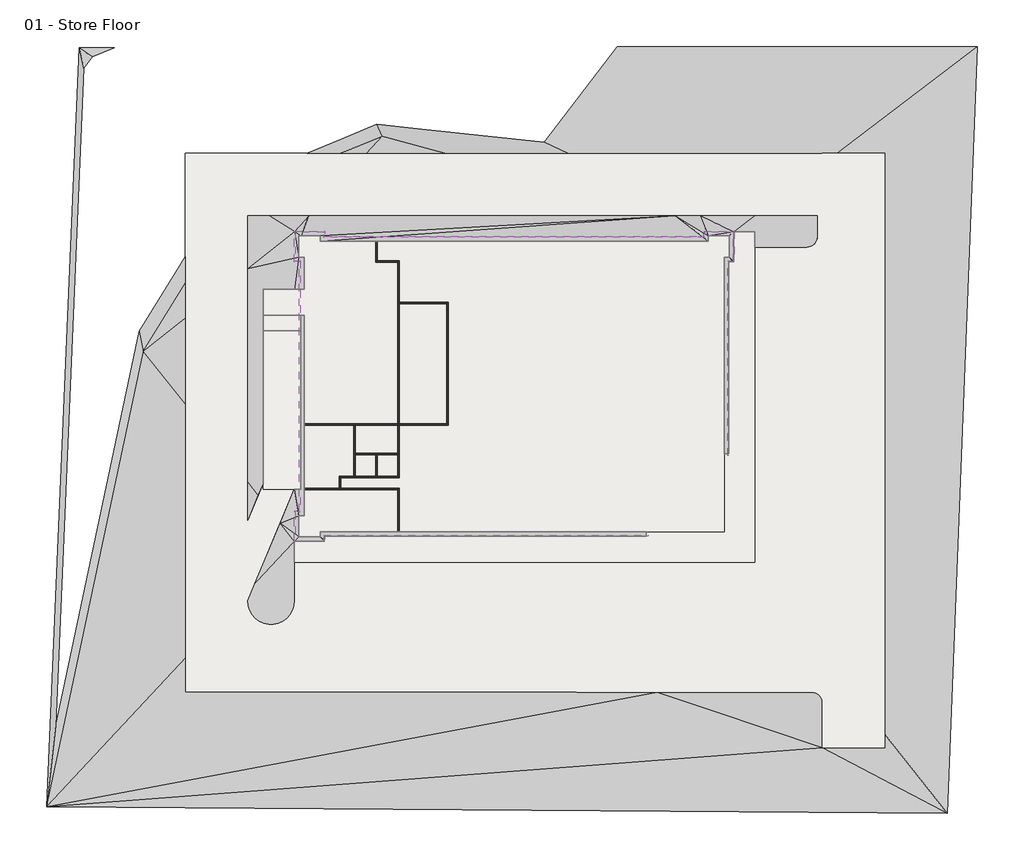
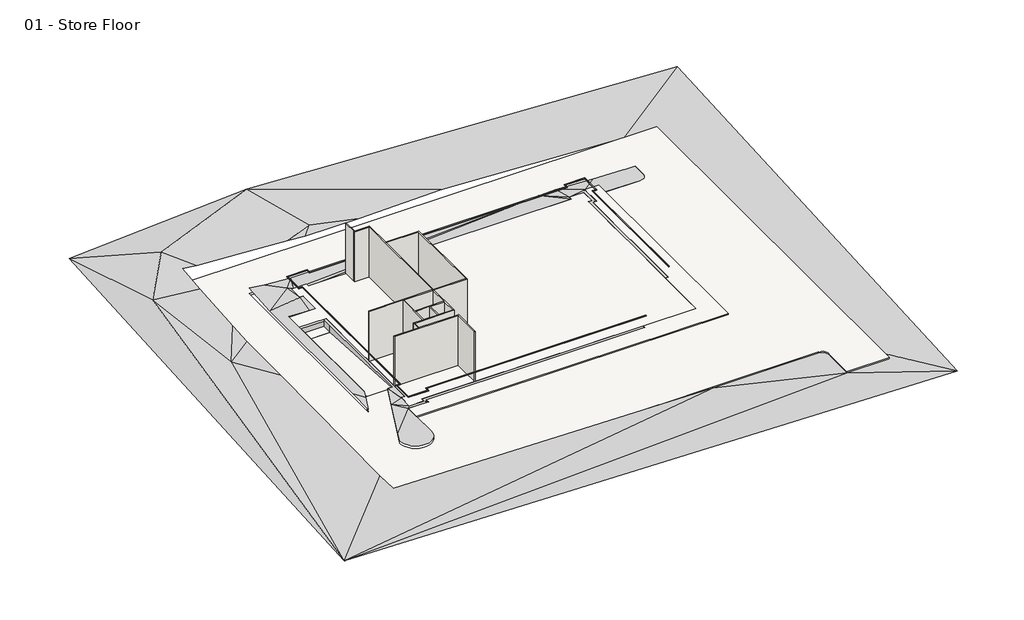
# One storey, incomplete: 21 proxies, 13 walls, 5 slabs.
"""IFC4 building model written with IfcOpenShell, lengths in millimetres."""

from ifc_helpers import new_model, si_unit, point, frame, frame_2d, origin, origin_with_axes, place, context, project, spatial, polyline, circle_curve, trimmed, segment, composite_curve, outline, extrude, faceted_brep, triangles, element, save

model = new_model("IFC4")

# Units and contexts
model_context = context("Model", 3, world=origin())
ifc_project = project(units=[si_unit("LENGTHUNIT", "METRE", prefix="MILLI")], contexts=[model_context])

# Site, building, storey
site = spatial("IfcSite", under=ifc_project)
building = spatial("IfcBuilding", under=site)
storey = spatial("IfcBuildingStorey", under=building, Name="01 - Store Floor", Elevation=0.0)

# Proxies
placement = place(None, origin())
element("IfcBuildingElementProxy", 1, Name="Reveals", at=placement, inside=storey, context=model_context, shape_type="SweptSolid", body=[
    extrude(outline(polyline([(11070.0272279, -14331.9313057), (11070.0272279, -14434.4313057), (-20003.9727721, -14434.4313057), (-20106.4727721, -14331.9313057), (11070.0272279, -14331.9313057)])), frame((0.0, 0.0, 1675.0), z_axis=(0.0, 0.0, 1.0), x_axis=(1.0, 0.0, 0.0)), (0.0, 0.0, 1.0), 75.0),
])
element("IfcBuildingElementProxy", 2, Name="Reveals", at=placement, inside=storey, context=model_context, shape_type="SweptSolid", body=[
    extrude(outline(polyline([(-20106.4727721, -14331.9313057), (-20003.9727721, -14434.4313057), (-20003.9727721, -14934.2313057), (-20106.4727721, -14831.7313057), (-20106.4727721, -14331.9313057)])), frame((0.0, 0.0, 1675.0), z_axis=(0.0, 0.0, 1.0), x_axis=(1.0, 0.0, 0.0)), (0.0, 0.0, 1.0), 75.0),
])
element("IfcBuildingElementProxy", 3, Name="Reveals", at=placement, inside=storey, context=model_context, shape_type="SweptSolid", body=[
    extrude(outline(polyline([(-20106.4727721, -14831.7313057), (-20003.9727721, -14934.2313057), (-22946.9727721, -14934.2313057), (-22844.4727721, -14831.7313057), (-20106.4727721, -14831.7313057)])), frame((0.0, 0.0, 1675.0), z_axis=(0.0, 0.0, 1.0), x_axis=(1.0, 0.0, 0.0)), (0.0, 0.0, 1.0), 75.0),
])
element("IfcBuildingElementProxy", 4, Name="Reveals", at=placement, inside=storey, context=model_context, shape_type="SweptSolid", body=[
    extrude(outline(polyline([(-22844.4727721, -14831.7313057), (-22946.9727721, -14934.2313057), (-22946.9727721, -11991.2313057), (-22844.4727721, -12093.7313057), (-22844.4727721, -14831.7313057)])), frame((0.0, 0.0, 1675.0), z_axis=(0.0, 0.0, 1.0), x_axis=(1.0, 0.0, 0.0)), (0.0, 0.0, 1.0), 75.0),
])
element("IfcBuildingElementProxy", 5, Name="Reveals", at=placement, inside=storey, context=model_context, shape_type="SweptSolid", body=[
    extrude(outline(polyline([(-22844.4727721, -12093.7313057), (-22946.9727721, -11991.2313057), (-22446.9727721, -11991.2313057), (-22344.4727721, -12093.7313057), (-22844.4727721, -12093.7313057)])), frame((0.0, 0.0, 1675.0), z_axis=(0.0, 0.0, 1.0), x_axis=(1.0, 0.0, 0.0)), (0.0, 0.0, 1.0), 75.0),
])
element("IfcBuildingElementProxy", 6, Name="Reveals", at=placement, inside=storey, context=model_context, shape_type="SweptSolid", body=[
    extrude(outline(polyline([(-22344.4727721, -12093.7313057), (-22446.9727721, -11991.2313057), (-22446.9727721, 11927.5686943), (-22344.4727721, 12030.0686943), (-22344.4727721, -12093.7313057)])), frame((0.0, 0.0, 1675.0), z_axis=(0.0, 0.0, 1.0), x_axis=(1.0, 0.0, 0.0)), (0.0, 0.0, 1.0), 75.0),
])
element("IfcBuildingElementProxy", 7, Name="Reveals", at=placement, inside=storey, context=model_context, shape_type="SweptSolid", body=[
    extrude(outline(polyline([(-22344.4727721, 12030.0686943), (-22446.9727721, 11927.5686943), (-22946.9727721, 11927.5686943), (-22844.4727721, 12030.0686943), (-22344.4727721, 12030.0686943)])), frame((0.0, 0.0, 1675.0), z_axis=(0.0, 0.0, 1.0), x_axis=(1.0, 0.0, 0.0)), (0.0, 0.0, 1.0), 75.0),
])
element("IfcBuildingElementProxy", 8, Name="Reveals", at=placement, inside=storey, context=model_context, shape_type="SweptSolid", body=[
    extrude(outline(polyline([(-22844.4727721, 12030.0686943), (-22946.9727721, 11927.5686943), (-22946.9727721, 14870.5686943), (-22844.4727721, 14768.0686943), (-22844.4727721, 12030.0686943)])), frame((0.0, 0.0, 1675.0), z_axis=(0.0, 0.0, 1.0), x_axis=(1.0, 0.0, 0.0)), (0.0, 0.0, 1.0), 75.0),
])
element("IfcBuildingElementProxy", 9, Name="Reveals", at=placement, inside=storey, context=model_context, shape_type="SweptSolid", body=[
    extrude(outline(polyline([(-22844.4727721, 14768.0686943), (-22946.9727721, 14870.5686943), (-20003.9727721, 14870.5686943), (-20106.4727721, 14768.0686943), (-22844.4727721, 14768.0686943)])), frame((0.0, 0.0, 1675.0), z_axis=(0.0, 0.0, 1.0), x_axis=(1.0, 0.0, 0.0)), (0.0, 0.0, 1.0), 75.0),
])
element("IfcBuildingElementProxy", 10, Name="Reveals", at=placement, inside=storey, context=model_context, shape_type="SweptSolid", body=[
    extrude(outline(polyline([(-20106.4727721, 14768.0686943), (-20003.9727721, 14870.5686943), (-20003.9727721, 14370.5686943), (-20106.4727721, 14268.0686943), (-20106.4727721, 14768.0686943)])), frame((0.0, 0.0, 1675.0), z_axis=(0.0, 0.0, 1.0), x_axis=(1.0, 0.0, 0.0)), (0.0, 0.0, 1.0), 75.0),
])
element("IfcBuildingElementProxy", 11, Name="Reveals", at=placement, inside=storey, context=model_context, shape_type="SweptSolid", body=[
    extrude(outline(polyline([(-20106.4727721, 14268.0686943), (-20003.9727721, 14370.5686943), (16365.0272279, 14370.5686943), (16467.5272279, 14268.0686943), (-20106.4727721, 14268.0686943)])), frame((0.0, 0.0, 1675.0), z_axis=(0.0, 0.0, 1.0), x_axis=(1.0, 0.0, 0.0)), (0.0, 0.0, 1.0), 75.0),
])
element("IfcBuildingElementProxy", 12, Name="Reveals", at=placement, inside=storey, context=model_context, shape_type="SweptSolid", body=[
    extrude(outline(polyline([(16467.5272279, 14268.0686943), (16365.0272279, 14370.5686943), (16365.0272279, 14870.5686943), (16467.5272279, 14768.0686943), (16467.5272279, 14268.0686943)])), frame((0.0, 0.0, 1675.0), z_axis=(0.0, 0.0, 1.0), x_axis=(1.0, 0.0, 0.0)), (0.0, 0.0, 1.0), 75.0),
])
element("IfcBuildingElementProxy", 13, Name="Reveals", at=placement, inside=storey, context=model_context, shape_type="SweptSolid", body=[
    extrude(outline(polyline([(16467.5272279, 14768.0686943), (16365.0272279, 14870.5686943), (19308.0272279, 14870.5686943), (19205.5272279, 14768.0686943), (16467.5272279, 14768.0686943)])), frame((0.0, 0.0, 1675.0), z_axis=(0.0, 0.0, 1.0), x_axis=(1.0, 0.0, 0.0)), (0.0, 0.0, 1.0), 75.0),
])
element("IfcBuildingElementProxy", 14, Name="Reveals", at=placement, inside=storey, context=model_context, shape_type="SweptSolid", body=[
    extrude(outline(polyline([(19205.5272279, 14768.0686943), (19308.0272279, 14870.5686943), (19308.0272279, 11927.5686943), (19205.5272279, 12030.0686943), (19205.5272279, 14768.0686943)])), frame((0.0, 0.0, 1675.0), z_axis=(0.0, 0.0, 1.0), x_axis=(1.0, 0.0, 0.0)), (0.0, 0.0, 1.0), 75.0),
])
element("IfcBuildingElementProxy", 15, Name="Reveals", at=placement, inside=storey, context=model_context, shape_type="SweptSolid", body=[
    extrude(outline(polyline([(19205.5272279, 12030.0686943), (19308.0272279, 11927.5686943), (18808.0272279, 11927.5686943), (18705.5272279, 12030.0686943), (19205.5272279, 12030.0686943)])), frame((0.0, 0.0, 1675.0), z_axis=(0.0, 0.0, 1.0), x_axis=(1.0, 0.0, 0.0)), (0.0, 0.0, 1.0), 75.0),
])
element("IfcBuildingElementProxy", 16, Name="Reveals", at=placement, inside=storey, context=model_context, shape_type="SweptSolid", body=[
    extrude(outline(polyline([(18705.5272279, 12030.0686943), (18808.0272279, 11927.5686943), (18808.0272279, -6696.4313057), (18705.5272279, -6696.4313057), (18705.5272279, 12030.0686943)])), frame((0.0, 0.0, 1675.0), z_axis=(0.0, 0.0, 1.0), x_axis=(1.0, 0.0, 0.0)), (0.0, 0.0, 1.0), 75.0),
])
element("IfcBuildingElementProxy", 17, Name="Building Element Proxy", at=placement, inside=storey, context=model_context, shape_type="Tessellation", body=[
    triangles([(-43566.3082031, 32462.523175, 1000.0000076), (-46716.2229126, -40393.2088623, 1000.0000076), (39777.6557373, -41004.7343262, -500.0000038), (42663.8237549, 32601.6611938, -500.0000038), (-18392.8342987, 32565.4122437, 2500.0000191), (33780.5264465, -34706.930365, -384.9401665), (27780.5275635, -34706.930365, -383.6411179), (27780.5275635, -30406.9323669, -305.9673343), (27731.5840393, -30097.9140198, -300.3747432), (27589.5438721, -29819.144989, -295.30841), (27368.3131897, -29597.9143066, -291.2642528), (27089.5441589, -29455.8741394, -288.6381413), (26780.5281372, -29406.9306152, -287.6871456), (11915.4122314, -29406.9306152, -284.4687919), (-33419.4717407, -29406.9306152, 509.2660807), (-33419.4717407, -26152.3013672, 432.8553014), (-33419.4717407, -1684.9523849, 719.9349804), (-33419.4717407, 6518.3399185, 720.4169277), (-33419.4717407, 9885.0384888, 1000.0000076), (-33419.4717407, 18055.2002563, 1642.8014694), (-33419.4717407, 22343.0687622, 2044.0540123), (-31378.0544861, 22343.0687622, 1780.8529266), (-25462.4923096, 22343.0687622, 1430.5636974), (-18450.5005463, 22343.0687622, 1000.0000076), (-16016.6502686, 22343.0687622, 817.2966974), (-8441.5899673, 22343.0687622, 817.7947048), (3306.7528107, 22343.0687622, 1051.3779762), (29175.0005859, 22343.0687622, -220.2242939), (33780.5264465, 22343.0687622, -317.0081938), (33780.5264465, 15117.0051819, -319.6062183), (33780.5264465, -33407.95849, -361.4759374), (26280.5260986, 13343.0692749, -162.6334778), (26589.5444458, 13392.0116364, -169.1097904), (26868.3134766, 13534.0518036, -174.9169577), (27089.5441589, 13755.2836487, -179.4865371), (27231.5843262, 14034.0515167, -182.3712447), (27280.5278503, 14343.0687012, -183.2886669), (27280.5278503, 16343.0687164, -182.5695974), (21285.7193481, 16343.0687164, -56.5903049), (16043.3172455, 16343.0687164, 201.1098175), (13662.4242004, 16343.0687164, 153.7723545), (-21518.9074402, 16343.0687164, 151.4593325), (-25294.1537476, 16343.0687164, 434.8579408), (-27419.4728577, 16343.0687164, 722.9589964), (-27419.4728577, 11264.0287354, 301.1768745), (-27419.4728577, -9240.2545898, 299.9721152), (-27419.4728577, -12884.300766, 257.215895), (-26417.4247192, -10502.0496643, 229.83499), (-25919.4737183, -9318.2271561, 195.0878195), (-25919.4737183, 5316.5097885, 195.9477053), (-25919.4737183, 6816.5095093, 196.0358358), (-25919.4737183, 9316.509819, 196.18272), (-22899.116217, 9316.509819, -14.9999997), (-21990.4716797, 9316.509819, -14.9999997), (-21990.4716797, 12384.0685089, -14.9999997), (-22490.4737183, 12384.0685089, -14.9999997), (-22490.4737183, 14414.0690186, -14.9999997), (-22283.239856, 14414.0690186, -14.9999997), (-20460.4720459, 14414.0690186, -14.9999997), (-20460.4720459, 13914.0681427, -14.9999997), (16821.5267212, 13914.0681427, -14.9999997), (16821.5267212, 14414.0690186, -14.9999997), (18851.5272308, 14414.0690186, -14.9999997), (18851.5272308, 12384.0685089, -14.9999997), (18351.5275177, 12384.0685089, -14.9999997), (18351.5275177, -6481.9310944, -14.9999997), (18780.5269135, -6481.9310944, -14.9999997), (18780.5269135, 11955.0691132, -14.9999997), (19231.5447327, 11955.0691132, -14.9999997), (19280.5277893, 11955.0691132, -16.029345), (19280.5277893, 14818.0687775, -14.9999997), (19280.5277893, 14843.0684143, -14.0659235), (19313.3990387, 14843.0684143, -15.6818087), (21280.5266418, 14843.0684143, -57.0204839), (21280.5266418, 13343.0692749, -57.559786), (-22919.473114, -16906.9308105, 31.9598247), (-22919.473114, -14906.7308075, -14.9999997), (-20031.4726501, -14906.7308075, -15.6252635), (-20031.4726501, -14872.1166412, -14.9999997), (-20031.4726501, -14406.9310822, -14.9999997), (10855.5269257, -14406.9310822, -14.9999997), (10855.5269257, -13977.9316864, -14.9999997), (-20460.4720459, -13977.9316864, -14.9999997), (-20460.4720459, -14477.7314117, -14.9999997), (-22490.4737183, -14477.7314117, -14.9999997), (-22490.4737183, -12447.7309021, -14.9999997), (-21990.4716797, -12447.7309021, -14.9999997), (-21990.4716797, 6816.5095093, -14.9999997), (-22319.4725281, 6816.5095093, -14.9999997), (-22319.4725281, 5316.5097885, -14.9999997), (-22319.4725281, -9923.4907928, -14.9999997), (-22915.2849976, -9923.4907928, -14.9999997), (-22919.473114, -9923.4907928, -14.7072021), (-24289.7755188, -13181.2233398, 80.9126756), (-26734.0263245, -18992.1430664, 147.701713), (-27419.4728577, -20621.7110413, 197.9609908), (-27370.3037659, -21089.5127197, 208.0829929), (-27224.9498474, -21536.8691345, 216.040901), (-26989.7618774, -21944.2279907, 221.4869712), (-26675.0159729, -22293.7880493, 224.1831366), (-26294.471759, -22570.2688477, 224.0115809), (-25864.7607788, -22761.5897278, 220.9798074), (-25404.6609558, -22859.386084, 215.2203116), (-24934.2826904, -22859.386084, 206.9848041), (-24474.1851929, -22761.5897278, 196.6332376), (-24044.4718872, -22570.2688477, 184.6180007), (-23663.9299988, -22293.7880493, 171.4642251), (-23349.1840942, -21944.2279907, 157.746803), (-23113.9961243, -21536.8691345, 144.0652526), (-22968.6398804, -21089.5127197, 131.0175116), (-22919.473114, -20621.7110413, 119.1738304), (-34204.7703186, 26133.4374023, 2500.0000191), (-40234.7441162, 17825.4724182, 2500.0000191), (-14506.8505646, 23989.4473389, 1000.0000076), (-37420.7554138, 3353.5319321, 1000.0000076), (-22894.4723145, 14843.0684143, -14.9999997)], [[2, 15, 16], [115, 2, 16], [96, 101, 102], [97, 100, 101], [102, 103, 96], [97, 98, 100], [96, 97, 101], [96, 111, 95], [98, 99, 100], [104, 96, 103], [46, 47, 48], [105, 106, 96], [106, 107, 96], [108, 109, 96], [110, 96, 109], [107, 108, 96], [110, 111, 96], [95, 76, 77], [78, 85, 77], [94, 77, 85], [94, 95, 77], [95, 111, 76], [86, 93, 94], [91, 86, 87], [92, 93, 86], [86, 91, 92], [86, 94, 85], [105, 96, 104], [14, 15, 2], [115, 18, 19], [18, 115, 17], [115, 19, 113], [44, 45, 43], [52, 45, 51], [49, 50, 46], [115, 16, 17], [1, 113, 112], [1, 2, 113], [112, 113, 21], [5, 1, 112], [20, 113, 19], [21, 22, 112], [20, 21, 113], [112, 22, 23], [45, 52, 56], [113, 2, 115], [50, 51, 45], [46, 50, 45], [88, 89, 90], [87, 88, 91], [46, 48, 49], [45, 116, 43], [56, 116, 45], [42, 43, 116], [52, 53, 56], [56, 53, 54], [57, 58, 116], [56, 57, 116], [54, 55, 56], [42, 116, 58], [5, 112, 23], [83, 84, 80], [85, 78, 84], [79, 84, 78], [79, 80, 84], [82, 80, 81], [82, 83, 80], [88, 90, 91], [66, 67, 68], [65, 68, 64], [68, 65, 66], [10, 8, 9], [7, 8, 13], [6, 3, 31], [3, 6, 7], [7, 14, 2], [8, 10, 11], [69, 70, 64], [64, 68, 69], [11, 12, 13], [11, 13, 8], [75, 32, 74], [31, 3, 30], [13, 14, 7], [2, 3, 7], [64, 70, 71], [59, 60, 41], [59, 42, 58], [62, 40, 41], [72, 62, 63], [62, 72, 40], [62, 41, 61], [41, 60, 61], [24, 5, 23], [5, 24, 114], [27, 5, 26], [25, 114, 24], [114, 25, 26], [5, 114, 26], [42, 59, 41], [4, 5, 27], [64, 71, 63], [71, 72, 63], [34, 35, 37], [36, 37, 35], [34, 37, 33], [32, 37, 38], [73, 74, 39], [39, 74, 32], [39, 32, 38], [73, 39, 72], [29, 4, 28], [4, 29, 30], [30, 3, 4], [4, 27, 28], [40, 72, 39], [33, 37, 32]], closed=False),
])
element("IfcBuildingElementProxy", 18, Name="Building Element Proxy", at=placement, inside=storey, context=model_context, shape_type="Tessellation", body=[
    triangles([(10855.5269257, -13977.9316864, -304.9595106), (10855.5269257, -13977.9316864, -14.9999997), (-20460.4720459, -13977.9316864, -304.9595106), (-20460.4720459, -13977.9316864, -14.9999997), (-20460.4720459, -14477.7314117, -304.9595106), (-20460.4720459, -14477.7314117, -14.9999997), (-22490.4737183, -14477.7314117, -304.9595106), (-22490.4737183, -14477.7314117, -14.9999997), (-22490.4737183, -12447.7309021, -304.9595106), (-22490.4737183, -12447.7309021, -14.9999997), (-21990.4716797, -12447.7309021, -304.9595106), (-21990.4716797, -12447.7309021, -14.9999997), (-21990.4716797, 6816.5095093, -304.9595106), (-21990.4716797, 6816.5095093, -14.9999997), (-22319.4725281, 6816.5095093, -304.9595106), (-22319.4725281, 6816.5095093, -14.9999997)], [[1, 4, 2], [1, 3, 4], [3, 6, 4], [3, 5, 6], [5, 8, 6], [5, 7, 8], [7, 10, 8], [7, 9, 10], [9, 12, 10], [9, 11, 12], [11, 14, 12], [11, 13, 14], [13, 16, 14], [13, 15, 16]], closed=False),
    triangles([(-25919.4737183, 6816.5095093, -304.9595106), (-25919.4737183, 6816.5095093, 196.0358358), (-25919.4737183, 9316.509819, -304.9595106), (-25919.4737183, 9316.509819, 196.18272), (-22899.116217, 9316.509819, -304.9595106), (-22899.116217, 9316.509819, -14.9999997), (-21990.4716797, 9316.509819, -304.9595106), (-21990.4716797, 9316.509819, -14.9999997), (-21990.4716797, 12384.0685089, -304.9595106), (-21990.4716797, 12384.0685089, -14.9999997), (-22490.4737183, 12384.0685089, -304.9595106), (-22490.4737183, 12384.0685089, -14.9999997), (-22490.4737183, 14414.0690186, -304.9595106), (-22490.4737183, 14414.0690186, -14.9999997), (-22283.239856, 14414.0690186, -304.9595106), (-22283.239856, 14414.0690186, -14.9999997), (-20460.4720459, 14414.0690186, -304.9595106), (-20460.4720459, 14414.0690186, -14.9999997), (-20460.4720459, 13914.0681427, -304.9595106), (-20460.4720459, 13914.0681427, -14.9999997), (16821.5267212, 13914.0681427, -304.9595106), (16821.5267212, 13914.0681427, -14.9999997), (16821.5267212, 14414.0690186, -304.9595106), (16821.5267212, 14414.0690186, -14.9999997), (18851.5272308, 14414.0690186, -304.9595106), (18851.5272308, 14414.0690186, -14.9999997), (18851.5272308, 12384.0685089, -304.9595106), (18851.5272308, 12384.0685089, -14.9999997), (18351.5275177, 12384.0685089, -304.9595106), (18351.5275177, 12384.0685089, -14.9999997), (18351.5275177, -6481.9310944, -304.9595106), (18351.5275177, -6481.9310944, -14.9999997)], [[1, 4, 2], [1, 3, 4], [3, 6, 4], [3, 5, 6], [5, 8, 6], [5, 7, 8], [7, 10, 8], [7, 9, 10], [9, 12, 10], [9, 11, 12], [11, 14, 12], [11, 13, 14], [13, 16, 14], [13, 15, 16], [15, 18, 16], [15, 17, 18], [17, 20, 18], [17, 19, 20], [19, 22, 20], [19, 21, 22], [21, 24, 22], [21, 23, 24], [23, 26, 24], [23, 25, 26], [25, 28, 26], [25, 27, 28], [27, 30, 28], [27, 29, 30], [29, 32, 30], [29, 31, 32]], closed=False),
    triangles([(16821.5267212, 13914.0681427, -304.9595106), (-20460.4720459, 13914.0681427, -304.9595106), (-20460.4720459, 14414.0690186, -304.9595106), (-22490.4737183, 14414.0690186, -304.9595106), (-22490.4737183, 12384.0685089, -304.9595106), (-21990.4716797, 12384.0685089, -304.9595106), (-21990.4716797, 9316.509819, -304.9595106), (-25919.4737183, 9316.509819, -304.9595106), (-25919.4737183, 6816.5095093, -304.9595106), (-21990.4716797, 6816.5095093, -304.9595106), (-21990.4716797, -12447.7309021, -304.9595106), (-22490.4737183, -12447.7309021, -304.9595106), (-22490.4737183, -14477.7314117, -304.9595106), (-20460.4720459, -14477.7314117, -304.9595106), (-20460.4720459, -13977.9316864, -304.9595106), (10855.5269257, -13977.9316864, -304.9595106), (18351.5275177, -13977.9316864, -304.9595106), (18351.5275177, -6481.9310944, -304.9595106), (18351.5275177, 12384.0685089, -304.9595106), (18851.5272308, 12384.0685089, -304.9595106), (18851.5272308, 14414.0690186, -304.9595106), (16821.5267212, 14414.0690186, -304.9595106)], [[11, 12, 13], [2, 7, 10], [13, 15, 11], [9, 10, 7], [4, 5, 6], [2, 4, 6], [7, 2, 6], [4, 2, 3], [8, 9, 7], [10, 11, 15], [16, 10, 15], [16, 17, 18], [1, 10, 16], [1, 16, 18], [10, 1, 2], [22, 1, 21], [19, 20, 21], [19, 21, 1], [18, 19, 1], [15, 13, 14]], closed=False),
])
element("IfcBuildingElementProxy", 19, Name="Building Element Proxy", at=placement, inside=storey, context=model_context, shape_type="Tessellation", body=[
    triangles([(10855.5269257, -13977.9316864, -304.9595106), (10855.5269257, -13977.9316864, -14.9999997), (10855.5269257, -14406.9310822, -304.9595106), (10855.5269257, -14406.9310822, -14.9999997), (-20031.4726501, -14406.9310822, -304.9595106), (-20031.4726501, -14406.9310822, -14.9999997), (-20031.4726501, -14872.1166412, -304.9595106), (-20031.4726501, -14872.1166412, -14.9999997), (-20031.4726501, -14906.7308075, -304.9595106), (-20031.4726501, -14906.7308075, -15.6252635), (-22919.473114, -14906.7308075, -304.9595106), (-22919.473114, -14906.7308075, -14.9999997), (-22919.473114, -16906.9308105, -304.9595106), (-22919.473114, -16906.9308105, 31.9598247)], [[1, 4, 2], [1, 3, 4], [3, 6, 4], [3, 5, 6], [5, 8, 6], [5, 7, 8], [7, 10, 8], [7, 9, 10], [9, 12, 10], [9, 11, 12], [11, 14, 12], [11, 13, 14]], closed=False),
    triangles([(18351.5275177, -6481.9310944, -304.9595106), (18351.5275177, -6481.9310944, -14.9999997), (18780.5269135, -6481.9310944, -304.9595106), (18780.5269135, -6481.9310944, -14.9999997), (18780.5269135, 11955.0691132, -304.9595106), (18780.5269135, 11955.0691132, -14.9999997), (19231.5447327, 11955.0691132, -304.9595106), (19231.5447327, 11955.0691132, -14.9999997), (19280.5277893, 11955.0691132, -304.9595106), (19280.5277893, 11955.0691132, -16.029345), (19280.5277893, 14818.0687775, -304.9595106), (19280.5277893, 14818.0687775, -14.9999997), (19280.5277893, 14843.0684143, -304.9595106), (19280.5277893, 14843.0684143, -14.0659235), (19313.3990387, 14843.0684143, -304.9595106), (19313.3990387, 14843.0684143, -15.6818087), (21280.5266418, 14843.0684143, -304.9595106), (21280.5266418, 14843.0684143, -57.0204839), (21280.5266418, 13343.0692749, -304.9595106), (21280.5266418, 13343.0692749, -57.559786)], [[1, 4, 2], [1, 3, 4], [3, 6, 4], [3, 5, 6], [5, 8, 6], [5, 7, 8], [7, 10, 8], [7, 9, 10], [9, 12, 10], [9, 11, 12], [11, 14, 12], [11, 13, 14], [13, 16, 14], [13, 15, 16], [15, 18, 16], [15, 17, 18], [17, 20, 18], [17, 19, 20]], closed=False),
    triangles([(21280.5266418, 14843.0684143, -304.9595106), (19280.5277893, 14843.0684143, -304.9595106), (19280.5277893, 11955.0691132, -304.9595106), (18780.5269135, 11955.0691132, -304.9595106), (18780.5269135, -6481.9310944, -304.9595106), (18351.5275177, -6481.9310944, -304.9595106), (18351.5275177, -13977.9316864, -304.9595106), (10855.5269257, -13977.9316864, -304.9595106), (10855.5269257, -14406.9310822, -304.9595106), (-20031.4726501, -14406.9310822, -304.9595106), (-20031.4726501, -14906.7308075, -304.9595106), (-22919.473114, -14906.7308075, -304.9595106), (-22919.473114, -16906.9308105, -304.9595106), (21280.5266418, -16906.9308105, -304.9595106)], [[13, 11, 12], [11, 13, 9], [7, 8, 9], [10, 11, 9], [13, 14, 9], [7, 14, 5], [14, 7, 9], [5, 14, 1], [3, 4, 5], [1, 2, 3], [3, 5, 1], [5, 6, 7]], closed=False),
])
element("IfcBuildingElementProxy", 20, Name="Building Element Proxy", at=placement, inside=storey, context=model_context, shape_type="Tessellation", body=[
    triangles([(-25919.4737183, 5316.5097885, -1369.9595478), (-25919.4737183, 5316.5097885, -1370.3489136), (-22902.4788025, 5316.5097885, -1369.9595478), (-22902.4788025, 5316.5097885, -1370.3489136), (-22319.4725281, 5316.5097885, -1369.9595478), (-22319.4725281, 5316.5097885, -1370.3489136)], [[1, 4, 2], [1, 3, 4], [3, 6, 4], [3, 5, 6]], closed=False),
    triangles([(-25919.4737183, 6816.5095093, -1369.9595478), (-25919.4737183, 6816.5095093, -304.9595106), (-22901.2184143, 6816.5095093, -1369.9595478), (-22901.2184143, 6816.5095093, -304.9595106), (-22319.4725281, 6816.5095093, -1369.9595478), (-22319.4725281, 6816.5095093, -304.9595106)], [[1, 4, 2], [1, 3, 4], [3, 6, 4], [3, 5, 6]], closed=False),
    triangles([(-22319.4725281, 5316.5097885, -1369.9595478), (-22319.4725281, 5316.5097885, -14.9999997), (-22319.4725281, 6816.5095093, -1369.9595478), (-22319.4725281, 6816.5095093, -14.9999997)], [[1, 4, 2], [1, 3, 4]], closed=False),
    triangles([(-25919.4737183, 6816.5095093, -1369.9595478), (-25919.4737183, 6816.5095093, 196.0358358), (-25919.4737183, 5316.5097885, -1369.9595478), (-25919.4737183, 5316.5097885, 195.9477053)], [[1, 4, 2], [1, 3, 4]], closed=False),
    triangles([(-25919.4737183, 6816.5095093, -1369.9595478), (-25919.4737183, 5316.5097885, -1369.9595478), (-22319.4725281, 5316.5097885, -1369.9595478), (-22319.4725281, 6816.5095093, -1369.9595478)], [[1, 2, 3], [3, 4, 1]], closed=False),
])
element("IfcBuildingElementProxy", 21, Name="Building Element Proxy", at=placement, inside=storey, context=model_context, shape_type="Tessellation", body=[
    triangles([(-22319.4725281, 5316.5097885, -1370.3489136), (-22319.4725281, 5316.5097885, -14.9999997), (-22319.4725281, -9923.4907928, -455.3488775), (-22319.4725281, -9923.4907928, -14.9999997), (-22915.2849976, -9923.4907928, -455.3488775), (-22915.2849976, -9923.4907928, -14.9999997), (-22919.473114, -9923.4907928, -455.3488775), (-22919.473114, -9923.4907928, -14.7072021)], [[1, 4, 2], [1, 3, 4], [3, 6, 4], [3, 5, 6], [5, 8, 6], [5, 7, 8]], closed=False),
    triangles([(-25919.4737183, 5316.5097885, -1370.3489136), (-25919.4737183, 5316.5097885, 195.9477053), (-25919.4737183, -9318.2271561, -491.6884835), (-25919.4737183, -9318.2271561, 195.0878195)], [[1, 4, 2], [1, 3, 4]], closed=False),
    triangles([(-25919.4737183, 5316.5097885, -1370.3489136), (-25919.4737183, -9923.4907928, -455.3488775), (-22319.4725281, -9923.4907928, -455.3488775), (-22319.4725281, 5316.5097885, -1370.3489136)], [[1, 2, 3], [3, 4, 1]], closed=False),
])

# Slabs
element("IfcSlab", 22, ObjectType="Pad 1", at=placement, inside=storey, context=model_context, shape_type="SweptSolid", body=[
    extrude(outline(polyline([(16821.5272279, 13914.0686943), (16821.5272279, 14414.0686943), (18851.5272279, 14414.0686943), (18851.5272279, 12384.0686943), (18351.5272279, 12384.0686943), (18351.5272279, -6481.9313057), (18351.5272279, -13977.9313057), (10855.5272279, -13977.9313057), (-20460.4727721, -13977.9313057), (-20460.4727721, -14477.7313057), (-22490.4727721, -14477.7313057), (-22490.4727721, -12447.7313057), (-21990.4727721, -12447.7313057), (-21990.4727721, 6816.509692), (-25919.4727721, 6816.509692), (-25919.4727721, 9316.509692), (-21990.4727721, 9316.509692), (-21990.4727721, 12384.0686943), (-22490.4727721, 12384.0686943), (-22490.4727721, 14414.0686943), (-20460.4727721, 14414.0686943), (-20460.4727721, 13914.0686943), (16821.5272279, 13914.0686943)])), frame((0.0, 0.0, -304.8), z_axis=(0.0, 0.0, 1.0), x_axis=(1.0, 0.0, 0.0)), (0.0, 0.0, 1.0), 304.8),
])
element("IfcSlab", 23, ObjectType="Pad 1", at=placement, inside=storey, context=model_context, shape_type="SweptSolid", body=[
    extrude(outline(polyline([(21280.5272279, 14843.0686943), (21280.5272279, -16906.9313057), (-22919.4727721, -16906.9313057), (-22919.4727721, -14906.7313057), (-20031.4727721, -14906.7313057), (-20031.4727721, -14406.9313057), (10855.5272279, -14406.9313057), (10855.5272279, -13977.9313057), (18351.5272279, -13977.9313057), (18351.5272279, -6481.9313057), (18780.5272279, -6481.9313057), (18780.5272279, 11955.0686943), (19280.5272279, 11955.0686943), (19280.5272279, 14843.0686943), (21280.5272279, 14843.0686943)])), frame((0.0, 0.0, -304.8), z_axis=(0.0, 0.0, 1.0), x_axis=(1.0, 0.0, 0.0)), (0.0, 0.0, 1.0), 304.8),
])
element("IfcSlab", 24, ObjectType="Pad 1", at=placement, inside=storey, context=model_context, shape_type="SweptSolid", body=[
    extrude(outline(composite_curve([segment(polyline([(33780.5272279, -34706.9313057), (27780.5272279, -34706.9313057), (27780.5272279, -30406.9313057)]), True, "CONTINUOUS"), segment(trimmed(circle_curve(frame_2d((26780.5272279, -30406.9313057)), 1000.0), [point((27780.5272279, -30406.9313057))], [point((26780.5272279, -29406.9313057))], True, "CARTESIAN"), True, "CONTINUOUS"), segment(polyline([(26780.5272279, -29406.9313057), (-33419.4727721, -29406.9313057), (-33419.4727721, 22343.0686943), (33780.5272279, 22343.0686943), (33780.5272279, -34706.9313057)]), True, "CONTINUOUS")], self_intersect=False), holes=[composite_curve([segment(trimmed(circle_curve(frame_2d((26280.5272279, 14343.0686943)), 1000.0), [point((26280.5272279, 13343.0686943))], [point((27280.5272279, 14343.0686943))], True, "CARTESIAN"), True, "CONTINUOUS"), segment(polyline([(27280.5272279, 14343.0686943), (27280.5272279, 16343.0686943), (-27419.4727721, 16343.0686943), (-27419.4727721, -12884.3008421), (-25919.4727721, -9318.2269035), (-25919.4727721, -9923.490308), (-22919.4727721, -9923.490308), (-27419.4727721, -20621.7121237)]), True, "CONTINUOUS"), segment(trimmed(circle_curve(frame_2d((-25169.4727721, -20621.7121237)), 2250.0), [point((-27419.4727721, -20621.7121237))], [point((-22919.4727721, -20621.7121237))], True, "CARTESIAN"), True, "CONTINUOUS"), segment(polyline([(-22919.4727721, -20621.7121237), (-22919.4727721, -16906.9313057), (21280.5272279, -16906.9313057), (21280.5272279, 13343.0686943), (26280.5272279, 13343.0686943)]), True, "CONTINUOUS")], self_intersect=False)]), frame((0.0, 0.0, -454.8), z_axis=(0.0, 0.0, 1.0), x_axis=(1.0, 0.0, 0.0)), (0.0, 0.0, 1.0), 304.8),
])
element("IfcSlab", 25, ObjectType="Pad 1", at=placement, inside=storey, context=model_context, shape_type="SweptSolid", body=[
    extrude(outline(polyline([(-25919.4727721, 6816.509692), (-22319.4727721, 6816.509692), (-22319.4727721, 5316.509692), (-25919.4727721, 5316.509692), (-25919.4727721, 6816.509692)])), frame((0.0, 0.0, -1369.8), z_axis=(0.0, 0.0, 1.0), x_axis=(1.0, 0.0, 0.0)), (0.0, 0.0, 1.0), 304.8),
])
element("IfcSlab", 26, ObjectType="Pad 1", at=placement, inside=storey, context=model_context, shape_type="SweptSolid", body=[
    extrude(outline(polyline([(5316.509692, -1370.3488661), (-9923.490308, -455.3488661), (-9923.490308, -150.0), (5316.509692, -1065.0), (5316.509692, -1370.3488661)])), frame((-25919.4727721, 0.0, 0.0), z_axis=(1.0, 0.0, 0.0), x_axis=(0.0, 1.0, 0.0)), (0.0, 0.0, 1.0), 3600.0),
])

# Walls
element("IfcWall", 27, ObjectType="Interior - 138mm Partition (1-hr)", at=placement, inside=storey, context=model_context, shape_type="Brep", body=[
    faceted_brep([(-12850.2227721, -13977.9313057, 0.0), (-12850.2227721, -9826.1813057, 0.0), (-12850.2227721, -9826.1813057, 7500.0), (-12850.2227721, -13977.9313057, 7500.0), (-12988.7227721, -13977.9313057, 0.0), (-12988.7227721, -13977.9313057, 7500.0), (-12988.7227721, -9964.6813057, 7500.0), (-12988.7227721, -9826.1813057, 7500.0), (-12988.7227721, -9826.1813057, 0.0), (-12988.7227721, -9964.6813057, 0.0)], [[[0, 1, 2, 3]], [[4, 5, 6, 7, 8, 9]], [[1, 0, 4, 9, 8]], [[3, 2, 7, 6, 5]], [[0, 3, 5, 4]], [[2, 1, 8, 7]]]),
])
element("IfcWall", 28, ObjectType="Interior - 138mm Partition (1-hr)", at=placement, inside=storey, context=model_context, shape_type="Brep", body=[
    faceted_brep([(-12988.7227721, 12024.3186943, 0.0), (-14950.2227721, 12024.3186943, 0.0), (-15088.7227721, 12024.3186943, 0.0), (-15088.7227721, 12024.3186943, 7500.0), (-14950.2227721, 12024.3186943, 7500.0), (-12988.7227721, 12024.3186943, 7500.0), (-12988.7227721, 11885.8186943, 0.0), (-12988.7227721, 11885.8186943, 7500.0), (-15088.7227721, 11885.8186943, 7500.0), (-15088.7227721, 11885.8186943, 0.0)], [[[0, 1, 2, 3, 4, 5]], [[6, 7, 8, 9]], [[2, 1, 0, 6, 9]], [[5, 4, 3, 8, 7]], [[0, 5, 7, 6]], [[3, 2, 9, 8]]]),
])
element("IfcWall", 29, ObjectType="Interior - 138mm Partition (1-hr)", at=placement, inside=storey, context=model_context, shape_type="SweptSolid", body=[
    extrude(outline(polyline([(-14950.2227721, 13914.0686943), (-14950.2227721, 12024.3186943), (-15088.7227721, 12024.3186943), (-15088.7227721, 13914.0686943), (-14950.2227721, 13914.0686943)])), origin_with_axes(), (0.0, 0.0, 1.0), 7500.0),
])
element("IfcWall", 30, ObjectType="Interior - 138mm Partition (1-hr)", at=placement, inside=storey, context=model_context, shape_type="Brep", body=[
    faceted_brep([(-12850.2227721, -8637.6813057, 0.0), (-12988.7227721, -8637.6813057, 0.0), (-14965.5977721, -8637.6813057, 0.0), (-15104.0977721, -8637.6813057, 0.0), (-17080.9727721, -8637.6813057, 0.0), (-17219.4727721, -8637.6813057, 0.0), (-18588.7227721, -8637.6813057, 0.0), (-18588.7227721, -8637.6813057, 7500.0), (-17219.4727721, -8637.6813057, 7500.0), (-17080.9727721, -8637.6813057, 7500.0), (-15104.0977721, -8637.6813057, 7500.0), (-14965.5977721, -8637.6813057, 7500.0), (-12988.7227721, -8637.6813057, 7500.0), (-12850.2227721, -8637.6813057, 7500.0), (-12850.2227721, -8776.1813057, 0.0), (-12850.2227721, -8776.1813057, 7500.0), (-18450.2227721, -8776.1813057, 7500.0), (-18588.7227721, -8776.1813057, 7500.0), (-18588.7227721, -8776.1813057, 0.0), (-18450.2227721, -8776.1813057, 0.0)], [[[0, 1, 2, 3, 4, 5, 6, 7, 8, 9, 10, 11, 12, 13]], [[14, 15, 16, 17, 18, 19]], [[6, 5, 4, 3, 2, 1, 0, 14, 19, 18]], [[13, 12, 11, 10, 9, 8, 7, 17, 16, 15]], [[7, 6, 18, 17]], [[0, 13, 15, 14]]]),
])
element("IfcWall", 31, ObjectType="Interior - 138mm Partition (1-hr)", at=placement, inside=storey, context=model_context, shape_type="SweptSolid", body=[
    extrude(outline(polyline([(-18588.7227721, -9826.1813057), (-18588.7227721, -8776.1813057), (-18450.2227721, -8776.1813057), (-18450.2227721, -9826.1813057), (-18588.7227721, -9826.1813057)])), origin_with_axes(), (0.0, 0.0, 1.0), 7500.0),
])
element("IfcWall", 32, ObjectType="Interior - 138mm Partition (1-hr)", at=placement, inside=storey, context=model_context, shape_type="Brep", body=[
    faceted_brep([(-21990.4727721, -9964.6813057, 0.0), (-12988.7227721, -9964.6813057, 0.0), (-12988.7227721, -9964.6813057, 7500.0), (-21990.4727721, -9964.6813057, 7500.0), (-21990.4727721, -9826.1813057, 0.0), (-21990.4727721, -9826.1813057, 7500.0), (-18588.7227721, -9826.1813057, 7500.0), (-18450.2227721, -9826.1813057, 7500.0), (-12988.7227721, -9826.1813057, 7500.0), (-12988.7227721, -9826.1813057, 0.0), (-18450.2227721, -9826.1813057, 0.0), (-18588.7227721, -9826.1813057, 0.0)], [[[0, 1, 2, 3]], [[4, 5, 6, 7, 8, 9, 10, 11]], [[1, 0, 4, 11, 10, 9]], [[3, 2, 8, 7, 6, 5]], [[0, 3, 5, 4]], [[2, 1, 9, 8]]]),
])
element("IfcWall", 33, ObjectType="Interior - 138mm Partition (1-hr)", at=placement, inside=storey, context=model_context, shape_type="Brep", body=[
    faceted_brep([(-17080.9727721, -8637.6813057, 0.0), (-17080.9727721, -6606.9313057, 0.0), (-17080.9727721, -6468.4313057, 0.0), (-17080.9727721, -3776.1813057, 0.0), (-17080.9727721, -3776.1813057, 7500.0), (-17080.9727721, -6468.4313057, 7500.0), (-17080.9727721, -6606.9313057, 7500.0), (-17080.9727721, -8637.6813057, 7500.0), (-17219.4727721, -8637.6813057, 0.0), (-17219.4727721, -8637.6813057, 7500.0), (-17219.4727721, -3776.1813057, 7500.0), (-17219.4727721, -3776.1813057, 0.0)], [[[0, 1, 2, 3, 4, 5, 6, 7]], [[8, 9, 10, 11]], [[3, 2, 1, 0, 8, 11]], [[7, 6, 5, 4, 10, 9]], [[0, 7, 9, 8]], [[4, 3, 11, 10]]]),
])
element("IfcWall", 34, ObjectType="Interior - 138mm Partition (1-hr)", at=placement, inside=storey, context=model_context, shape_type="Brep", body=[
    faceted_brep([(-21990.4727721, -3637.6813057, 0.0), (-21990.4727721, -3637.6813057, 7500.0), (-12988.7227721, -3637.6813057, 7500.0), (-12988.7227721, -3637.6813057, 0.0), (-21990.4727721, -3776.1813057, 7500.0), (-21990.4727721, -3776.1813057, 0.0), (-17219.4727721, -3776.1813057, 0.0), (-17080.9727721, -3776.1813057, 0.0), (-12988.7227721, -3776.1813057, 0.0), (-12988.7227721, -3776.1813057, 7500.0), (-17080.9727721, -3776.1813057, 7500.0), (-17219.4727721, -3776.1813057, 7500.0)], [[[0, 1, 2, 3]], [[4, 5, 6, 7, 8, 9, 10, 11]], [[5, 0, 3, 8, 7, 6]], [[1, 4, 11, 10, 9, 2]], [[1, 0, 5, 4]], [[3, 2, 9, 8]]]),
    faceted_brep([(-8135.7227721, -3637.6813057, 7500.0), (-8135.7227721, -3637.6813057, 0.0), (-8274.2227721, -3637.6813057, 0.0), (-12850.2227721, -3637.6813057, 0.0), (-12850.2227721, -3637.6813057, 7500.0), (-8274.2227721, -3637.6813057, 7500.0), (-8135.7227721, -3776.1813057, 0.0), (-8135.7227721, -3776.1813057, 7500.0), (-12850.2227721, -3776.1813057, 7500.0), (-12850.2227721, -3776.1813057, 0.0)], [[[0, 1, 2, 3, 4, 5]], [[6, 7, 8, 9]], [[1, 6, 9, 3, 2]], [[7, 0, 5, 4, 8]], [[1, 0, 7, 6]], [[4, 3, 9, 8]]]),
])
element("IfcWall", 35, ObjectType="Interior - 138mm Partition (1-hr)", at=placement, inside=storey, context=model_context, shape_type="Brep", body=[
    faceted_brep([(-8135.7227721, -3637.6813057, 0.0), (-8135.7227721, 8062.3186943, 0.0), (-8135.7227721, 8062.3186943, 7500.0), (-8135.7227721, -3637.6813057, 7500.0), (-8274.2227721, -3637.6813057, 0.0), (-8274.2227721, -3637.6813057, 7500.0), (-8274.2227721, 7923.8186943, 7500.0), (-8274.2227721, 8062.3186943, 7500.0), (-8274.2227721, 8062.3186943, 0.0), (-8274.2227721, 7923.8186943, 0.0)], [[[0, 1, 2, 3]], [[4, 5, 6, 7, 8, 9]], [[1, 0, 4, 9, 8]], [[3, 2, 7, 6, 5]], [[0, 3, 5, 4]], [[2, 1, 8, 7]]]),
])
element("IfcWall", 36, ObjectType="Interior - 138mm Partition (1-hr)", at=placement, inside=storey, context=model_context, shape_type="SweptSolid", body=[
    extrude(outline(polyline([(-12850.2227721, 8062.3186943), (-8274.2227721, 8062.3186943), (-8274.2227721, 7923.8186943), (-12850.2227721, 7923.8186943), (-12850.2227721, 8062.3186943)])), origin_with_axes(), (0.0, 0.0, 1.0), 7500.0),
])
element("IfcWall", 37, ObjectType="Interior - 138mm Partition (1-hr)", at=placement, inside=storey, context=model_context, shape_type="Brep", body=[
    faceted_brep([(-12988.7227721, -6468.4313057, 0.0), (-17080.9727721, -6468.4313057, 0.0), (-17080.9727721, -6468.4313057, 7500.0), (-12988.7227721, -6468.4313057, 7500.0), (-12988.7227721, -6606.9313057, 0.0), (-12988.7227721, -6606.9313057, 7500.0), (-14965.5977721, -6606.9313057, 7500.0), (-15104.0977721, -6606.9313057, 7500.0), (-17080.9727721, -6606.9313057, 7500.0), (-17080.9727721, -6606.9313057, 0.0), (-15104.0977721, -6606.9313057, 0.0), (-14965.5977721, -6606.9313057, 0.0)], [[[0, 1, 2, 3]], [[4, 5, 6, 7, 8, 9, 10, 11]], [[1, 0, 4, 11, 10, 9]], [[3, 2, 8, 7, 6, 5]], [[0, 3, 5, 4]], [[2, 1, 9, 8]]]),
])
element("IfcWall", 38, ObjectType="Interior - 138mm Partition (1-hr)", at=placement, inside=storey, context=model_context, shape_type="SweptSolid", body=[
    extrude(outline(polyline([(-15104.0977721, -8637.6813057), (-15104.0977721, -6606.9313057), (-14965.5977721, -6606.9313057), (-14965.5977721, -8637.6813057), (-15104.0977721, -8637.6813057)])), origin_with_axes(), (0.0, 0.0, 1.0), 7500.0),
])
element("IfcWall", 39, ObjectType="Interior - 138mm Partition (1-hr)", at=placement, inside=storey, context=model_context, shape_type="Brep", body=[
    faceted_brep([(-12850.2227721, -8637.6813057, 0.0), (-12850.2227721, -3776.1813057, 0.0), (-12850.2227721, -3637.6813057, 0.0), (-12850.2227721, 7923.8186943, 0.0), (-12850.2227721, 8062.3186943, 0.0), (-12850.2227721, 12024.3186943, 0.0), (-12850.2227721, 12024.3186943, 7500.0), (-12850.2227721, 8062.3186943, 7500.0), (-12850.2227721, 7923.8186943, 7500.0), (-12850.2227721, -3637.6813057, 7500.0), (-12850.2227721, -3776.1813057, 7500.0), (-12850.2227721, -8637.6813057, 7500.0), (-12988.7227721, -8637.6813057, 0.0), (-12988.7227721, -8637.6813057, 7500.0), (-12988.7227721, -6606.9313057, 7500.0), (-12988.7227721, -6468.4313057, 7500.0), (-12988.7227721, -3776.1813057, 7500.0), (-12988.7227721, -3637.6813057, 7500.0), (-12988.7227721, 11885.8186943, 7500.0), (-12988.7227721, 12024.3186943, 7500.0), (-12988.7227721, 12024.3186943, 0.0), (-12988.7227721, 11885.8186943, 0.0), (-12988.7227721, -3637.6813057, 0.0), (-12988.7227721, -3776.1813057, 0.0), (-12988.7227721, -6468.4313057, 0.0), (-12988.7227721, -6606.9313057, 0.0)], [[[0, 1, 2, 3, 4, 5, 6, 7, 8, 9, 10, 11]], [[12, 13, 14, 15, 16, 17, 18, 19, 20, 21, 22, 23, 24, 25]], [[5, 4, 3, 2, 1, 0, 12, 25, 24, 23, 22, 21, 20]], [[11, 10, 9, 8, 7, 6, 19, 18, 17, 16, 15, 14, 13]], [[6, 5, 20, 19]], [[0, 11, 13, 12]]]),
])

save(model, "model.ifc")
